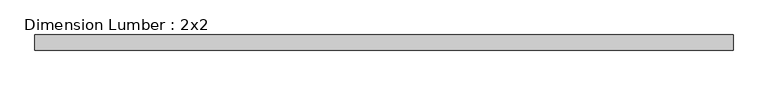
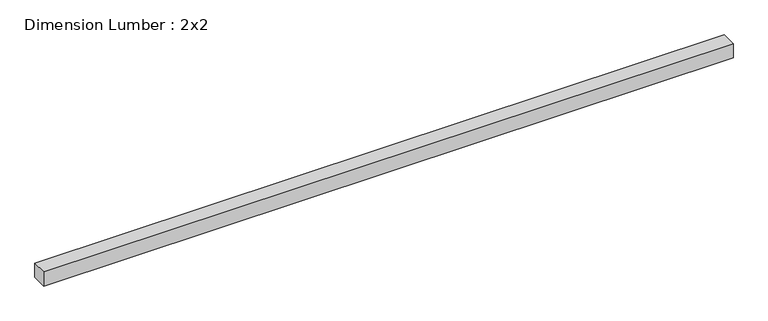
"""IFC4 building model written with IfcOpenShell, lengths in millimetres: beam geometry, Dimension Lumber : 2x2."""

import ifcopenshell
import ifcopenshell.guid

model = None  # the IFC model being written
_history = None  # IfcOwnerHistory: only IFC2X3 demands one
_inside = {}  # id of a spatial element -> (the spatial element, [elements in it])
_under = {}  # id of a project, library or spatial element -> (it, [spatial elements below it])
_declared = {}  # id of a project -> (the project, [libraries it declares])
_typed = {}  # id of a type object -> (the type object, [elements of that type])
_made_of = {}  # id of a material, layer set ... -> (it, [elements and type objects made of it])


def new_model(schema):
    """Start an empty IFC model of exactly this schema.

    Asked for "IFC4X3", IfcOpenShell would pick the latest addendum, in which some entities
    have other attributes; the version numbers below select the first issue.
    IFC2X3 requires an IfcOwnerHistory on every rooted entity: one is made here for all.
    """
    global model, _history
    if schema == "IFC4X3":
        model = ifcopenshell.file(schema_version=(4, 3, 0, 0))
    else:
        model = ifcopenshell.file(schema=schema)
    _inside.clear()
    _under.clear()
    _declared.clear()
    _typed.clear()
    _made_of.clear()
    _history = None
    if model.schema == "IFC2X3":
        org = make("IfcOrganization", Name="unknown")
        user = make(
            "IfcPersonAndOrganization",
            ThePerson=make("IfcPerson", FamilyName="unknown"),
            TheOrganization=org,
        )
        app = make(
            "IfcApplication",
            ApplicationDeveloper=org,
            Version="unknown",
            ApplicationFullName="unknown",
            ApplicationIdentifier="unknown",
        )
        _history = make(
            "IfcOwnerHistory",
            OwningUser=user,
            OwningApplication=app,
            ChangeAction="ADDED",
            CreationDate=0,
        )
    return model


def make(cls, **values):
    """One entity of the class cls with the attributes given. An attribute that is None is left unset."""
    return model.create_entity(
        cls, **{name: value for name, value in values.items() if value is not None}
    )


def rooted(cls, **values):
    """An entity with a GlobalId (a new one), such as an element, a storey or a relation."""
    return make(cls, GlobalId=ifcopenshell.guid.new(), OwnerHistory=_history, **values)


def si_unit(unit_type, name, prefix=None):
    """IfcSIUnit, for example si_unit("LENGTHUNIT", "METRE", prefix="MILLI")."""
    return make("IfcSIUnit", UnitType=unit_type, Prefix=prefix, Name=name)


def assignment(units):
    """IfcUnitAssignment: the units of a project."""
    return None if units is None else make("IfcUnitAssignment", Units=units)


def point(xyz):
    """IfcCartesianPoint."""
    return None if xyz is None else make("IfcCartesianPoint", Coordinates=xyz)


def direction(xyz):
    """IfcDirection."""
    return None if xyz is None else make("IfcDirection", DirectionRatios=xyz)


def frame(location, z_axis=None, x_axis=None):
    """IfcAxis2Placement3D, a coordinate frame: its origin and axes. An axis left out is left unset."""
    return make(
        "IfcAxis2Placement3D",
        Location=point(location),
        Axis=direction(z_axis),
        RefDirection=direction(x_axis),
    )


def origin():
    """The frame at (0, 0, 0) with its axes left unset."""
    return frame((0.0, 0.0, 0.0))


def place(relative_to, where):
    """IfcLocalPlacement: puts the frame where relative to a parent placement (None: the world)."""
    return make(
        "IfcLocalPlacement", PlacementRelTo=relative_to, RelativePlacement=where
    )


def context(
    kind, dimensions, precision=None, world=None, true_north=None, identifier=None
):
    """IfcGeometricRepresentationContext, for example the 3D "Model" context."""
    return make(
        "IfcGeometricRepresentationContext",
        ContextIdentifier=identifier,
        ContextType=kind,
        CoordinateSpaceDimension=dimensions,
        Precision=precision,
        WorldCoordinateSystem=world,
        TrueNorth=true_north,
    )


def project(units=None, contexts=None):
    """IfcProject with its units and contexts."""
    return rooted(
        "IfcProject",
        Name="project",
        RepresentationContexts=contexts,
        UnitsInContext=assignment(units),
    )


def spatial(cls, under=None, at=None, **own):
    """A site, building, storey or space (cls), placed at a placement, below another one or the project."""
    s = rooted(cls, ObjectPlacement=at, **own)
    if under is not None:
        _under.setdefault(under.id(), (under, []))[1].append(s)
    return s


def polyline(points):
    """IfcPolyline through the points."""
    return make("IfcPolyline", Points=[point(p) for p in points])


def outline(outer, holes=None, kind="AREA"):
    """IfcArbitraryClosedProfileDef: a profile drawn as a closed curve; with holes, ...WithVoids."""
    if holes is None:
        return make("IfcArbitraryClosedProfileDef", ProfileType=kind, OuterCurve=outer)
    return make(
        "IfcArbitraryProfileDefWithVoids",
        ProfileType=kind,
        OuterCurve=outer,
        InnerCurves=holes,
    )


def extrude(swept, where, along, depth):
    """IfcExtrudedAreaSolid: the profile swept, set in the frame where, extruded along a direction by depth."""
    return make(
        "IfcExtrudedAreaSolid",
        SweptArea=swept,
        Position=where,
        ExtrudedDirection=direction(along),
        Depth=depth,
    )


def shape(context_of_items, identifier, shape_type, items):
    """IfcShapeRepresentation: the items that make up one representation, for example the "Body"."""
    return make(
        "IfcShapeRepresentation",
        ContextOfItems=context_of_items,
        RepresentationIdentifier=identifier,
        RepresentationType=shape_type,
        Items=items,
    )


def source(mapping_origin, context_of_items, identifier, shape_type, items):
    """IfcRepresentationMap: a shape defined once, which mapped items show again and again."""
    return make(
        "IfcRepresentationMap",
        MappingOrigin=mapping_origin,
        MappedRepresentation=shape(context_of_items, identifier, shape_type, items),
    )


def transform(
    local_origin,
    x_axis=None,
    y_axis=None,
    z_axis=None,
    scale=None,
    scale2=None,
    scale3=None,
    uniform=True,
):
    """IfcCartesianTransformationOperator3D, or its non-uniform kind. x_axis, y_axis, z_axis: its Axis1, 2, 3."""
    if uniform:
        return make(
            "IfcCartesianTransformationOperator3D",
            Axis1=direction(x_axis),
            Axis2=direction(y_axis),
            LocalOrigin=point(local_origin),
            Scale=scale,
            Axis3=direction(z_axis),
        )
    return make(
        "IfcCartesianTransformationOperator3DnonUniform",
        Axis1=direction(x_axis),
        Axis2=direction(y_axis),
        LocalOrigin=point(local_origin),
        Scale=scale,
        Axis3=direction(z_axis),
        Scale2=scale2,
        Scale3=scale3,
    )


def mapped(mapping_source, mapping_target):
    """IfcMappedItem: shows the shape of a source again, moved by a transform."""
    return make(
        "IfcMappedItem", MappingSource=mapping_source, MappingTarget=mapping_target
    )


def made_of(thing, what):
    """Note that an element or type object is made of a material, layer set ...; save() writes the relation."""
    if what is not None:
        _made_of.setdefault(what.id(), (what, []))[1].append(thing)
    return thing


def element(
    cls,
    number,
    at=None,
    inside=None,
    cuts=None,
    type_object=None,
    material=None,
    context=None,
    identifier="Body",
    shape_type=None,
    held_by="IfcProductDefinitionShape",
    body=None,
    shapes=None,
    **own,
):
    """One element of the class cls, such as IfcWall. Its Tag is "e" and its number.

    at: its placement. inside: the storey or other place that contains it. cuts: it is an
    opening in that element (IfcRelVoidsElement). A single representation is given by context,
    identifier, shape_type and body (its items); several are given by shapes. held_by: the class
    of the entity that holds the representations. save() writes the other relations.
    """
    e = rooted(cls, Tag="e%d" % number, ObjectPlacement=at, **own)
    if body is not None:
        shapes = [shape(context, identifier, shape_type, body)]
    if shapes is not None:
        e.Representation = make(held_by, Representations=shapes)
    if inside is not None:
        _inside.setdefault(inside.id(), (inside, []))[1].append(e)
    if cuts is not None:
        rooted(
            "IfcRelVoidsElement", RelatingBuildingElement=cuts, RelatedOpeningElement=e
        )
    if type_object is not None:
        _typed.setdefault(type_object.id(), (type_object, []))[1].append(e)
    return made_of(e, material)


def aggregate(whole, parts):
    """IfcRelAggregates: a whole, such as a stair, and the parts it consists of."""
    return rooted("IfcRelAggregates", RelatingObject=whole, RelatedObjects=parts)


def save(model, path):
    """Write the relations noted so far, then the file.

    IfcRelAggregates (storeys below a building ...), IfcRelContainedInSpatialStructure (elements
    in a storey), IfcRelDefinesByType, IfcRelAssociatesMaterial and IfcRelDeclares: one each for
    every whole, place, type object, material and project.
    """
    for whole, parts in _under.values():
        aggregate(whole, parts)
    for where, things in _inside.values():
        rooted(
            "IfcRelContainedInSpatialStructure",
            RelatedElements=things,
            RelatingStructure=where,
        )
    for kind, things in _typed.values():
        rooted("IfcRelDefinesByType", RelatedObjects=things, RelatingType=kind)
    for what, things in _made_of.values():
        rooted("IfcRelAssociatesMaterial", RelatedObjects=things, RelatingMaterial=what)
    for by, libraries in _declared.values():
        rooted("IfcRelDeclares", RelatingContext=by, RelatedDefinitions=libraries)
    model.write(path)


def dimension_lumber_2x2_996a8784(model_context):
    return source(origin(), model_context, "Body", "SweptSolid", [
        extrude(outline(polyline([(876.3, 19.05), (876.3, -19.05), (-876.3, -19.05), (-876.3, 19.05), (876.3, 19.05)])), frame((0.0, 0.0, -19.05), z_axis=(0.0, 0.0, 1.0), x_axis=(1.0, 0.0, 0.0)), (0.0, 0.0, 1.0), 38.1),
    ])


if __name__ == "__main__":
    model = new_model("IFC4")
    model_context = context("Model", 3, world=origin())
    ifc_project = project(units=[si_unit("LENGTHUNIT", "METRE", prefix="MILLI")], contexts=[model_context])
    site = spatial("IfcSite", under=ifc_project)
    building = spatial("IfcBuilding", under=site)
    placement = place(None, origin())
    dimension_lumber_2x2_shape = dimension_lumber_2x2_996a8784(model_context)
    element("IfcBeam", 1, ObjectType="Dimension Lumber : 2x2", at=placement, inside=building, context=model_context, shape_type="MappedRepresentation", body=[
        mapped(dimension_lumber_2x2_shape, transform((0.0, 0.0, 0.0), x_axis=(1.0, 0.0, 0.0), y_axis=(0.0, 1.0, 0.0), z_axis=(0.0, 0.0, 1.0))),
    ])
    save(model, "model.ifc")
